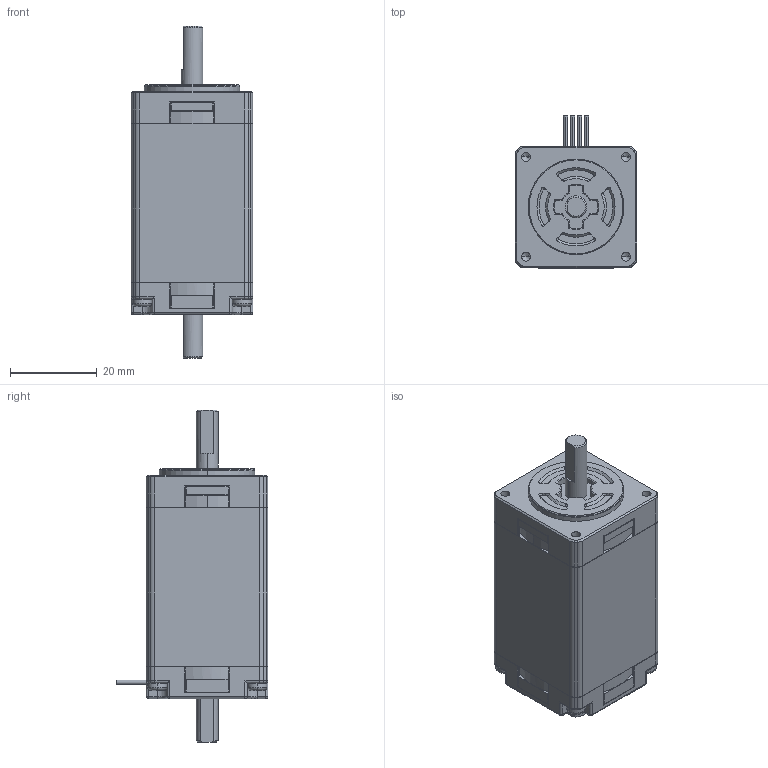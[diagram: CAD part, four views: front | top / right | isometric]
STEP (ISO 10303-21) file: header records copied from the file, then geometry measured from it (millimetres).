
FILE_DESCRIPTION (( 'STEP AP203' ), '1' );
FILE_NAME ('SH2285-5731.STEP', '2012-06-25T11:23:50', ( 'sanyodenki-admin' ), ( '' ), 'SwSTEP 2.0', 'SolidWorks 2011', '' );
FILE_SCHEMA (( 'CONFIG_CONTROL_DESIGN' ));
Length unit declared in the file: millimetre
Products named in the file (1): SH2285-5731
Bounding box: 28 x 35 x 76.45 mm (x, y, z)
Volume: 40431.3 mm3; surface area: 10406.9 mm2
Topology: 1 solids, 1 shells, 639 faces, 1705 edges, 1021 vertices
Faces by surface type: plane 247, cylinder 243, cone 79, torus 38, sphere 16, bspline 16
Entity records: 20133 total; most frequent: CARTESIAN_POINT 4034, DIRECTION 3498, ORIENTED_EDGE 3362, EDGE_CURVE 1681, AXIS2_PLACEMENT_3D 1301, VERTEX_POINT 1021, LINE 896, VECTOR 896
